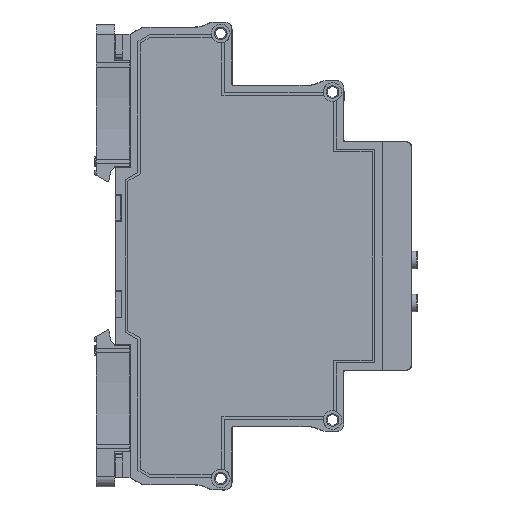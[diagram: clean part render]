
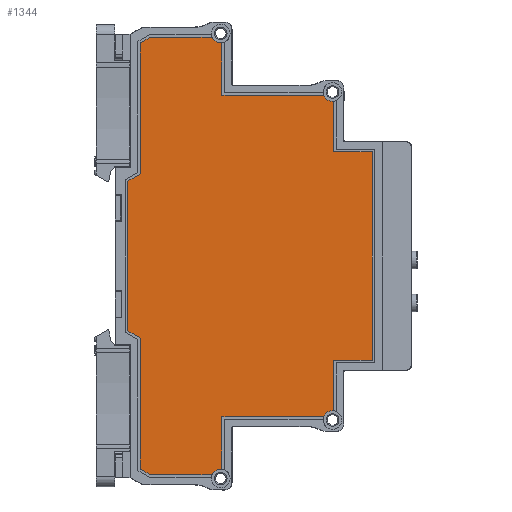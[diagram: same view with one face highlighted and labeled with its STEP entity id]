
A CAD part, front view. The second image highlights one B-rep face of the part: STEP entity #1344.
In plain terms, the highlighted planar face has unit normal (0, -1, 0) as drawn and (1, 0, 0) by its records, which use the part's own axes.
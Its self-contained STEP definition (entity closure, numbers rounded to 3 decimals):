
#1344=ADVANCED_FACE('',(#32249),#32251,.T.);
#32249=FACE_BOUND('',#32250,.T.);
#32250=EDGE_LOOP('',(#56974,#56975,#56976,#56977,#56978,#56979,#56980,#56981,#56982,
#56983,#56984,#56985,#56986,#56987,#56988,#56989,#56990,#56991,#56992,#56993,#56994,
#56995));
#32251=PLANE('',#32252);
#32252=AXIS2_PLACEMENT_3D('',#32253,#32254,#32255);
#32253=CARTESIAN_POINT('',(6.5,0.,0.));
#32254=DIRECTION('',(1.,0.,0.));
#32255=DIRECTION('',(0.,0.,-1.));
#56974=ORIENTED_EDGE('',*,*,#77044,.F.);
#56975=ORIENTED_EDGE('',*,*,#77045,.T.);
#56976=ORIENTED_EDGE('',*,*,#76962,.F.);
#56977=ORIENTED_EDGE('',*,*,#77046,.T.);
#56978=ORIENTED_EDGE('',*,*,#77047,.T.);
#56979=ORIENTED_EDGE('',*,*,#77048,.T.);
#56980=ORIENTED_EDGE('',*,*,#77049,.T.);
#56981=ORIENTED_EDGE('',*,*,#77050,.T.);
#56982=ORIENTED_EDGE('',*,*,#76946,.F.);
#56983=ORIENTED_EDGE('',*,*,#77051,.F.);
#56984=ORIENTED_EDGE('',*,*,#77052,.T.);
#56985=ORIENTED_EDGE('',*,*,#76956,.F.);
#56986=ORIENTED_EDGE('',*,*,#77053,.T.);
#56987=ORIENTED_EDGE('',*,*,#77054,.F.);
#56988=ORIENTED_EDGE('',*,*,#77055,.T.);
#56989=ORIENTED_EDGE('',*,*,#77056,.T.);
#56990=ORIENTED_EDGE('',*,*,#77057,.T.);
#56991=ORIENTED_EDGE('',*,*,#77058,.T.);
#56992=ORIENTED_EDGE('',*,*,#77059,.T.);
#56993=ORIENTED_EDGE('',*,*,#77060,.F.);
#56994=ORIENTED_EDGE('',*,*,#77061,.T.);
#56995=ORIENTED_EDGE('',*,*,#76972,.F.);
#76946=EDGE_CURVE('',#86633,#86618,#86635,.T.);
#76956=EDGE_CURVE('',#86653,#86638,#86655,.T.);
#76962=EDGE_CURVE('',#86665,#86667,#86668,.T.);
#76972=EDGE_CURVE('',#86685,#86687,#86688,.T.);
#77044=EDGE_CURVE('',#86826,#86685,#86827,.T.);
#77045=EDGE_CURVE('',#86826,#86667,#86828,.T.);
#77046=EDGE_CURVE('',#86665,#86829,#86830,.T.);
#77047=EDGE_CURVE('',#86829,#86831,#86832,.T.);
#77048=EDGE_CURVE('',#86831,#86833,#86834,.T.);
#77049=EDGE_CURVE('',#86833,#86835,#86836,.T.);
#77050=EDGE_CURVE('',#86835,#86618,#86837,.T.);
#77051=EDGE_CURVE('',#86838,#86633,#86839,.T.);
#77052=EDGE_CURVE('',#86838,#86638,#86840,.T.);
#77053=EDGE_CURVE('',#86653,#86841,#86842,.T.);
#77054=EDGE_CURVE('',#86843,#86841,#86844,.T.);
#77055=EDGE_CURVE('',#86843,#86845,#86846,.T.);
#77056=EDGE_CURVE('',#86845,#86847,#86848,.T.);
#77057=EDGE_CURVE('',#86847,#86849,#86850,.T.);
#77058=EDGE_CURVE('',#86849,#86851,#86852,.T.);
#77059=EDGE_CURVE('',#86851,#86853,#86854,.T.);
#77060=EDGE_CURVE('',#86855,#86853,#86856,.T.);
#77061=EDGE_CURVE('',#86855,#86687,#86857,.T.);
#86618=VERTEX_POINT('',#103300);
#86633=VERTEX_POINT('',#103333);
#86635=CIRCLE('',#103337,1.85);
#86638=VERTEX_POINT('',#103346);
#86653=VERTEX_POINT('',#103379);
#86655=CIRCLE('',#103383,1.85);
#86665=VERTEX_POINT('',#103407);
#86667=VERTEX_POINT('',#103411);
#86668=CIRCLE('',#103412,1.85);
#86685=VERTEX_POINT('',#103453);
#86687=VERTEX_POINT('',#103457);
#86688=CIRCLE('',#103458,1.85);
#86826=VERTEX_POINT('',#103762);
#86827=LINE('',#103763,#103764);
#86828=LINE('',#103766,#103767);
#86829=VERTEX_POINT('',#103769);
#86830=LINE('',#103770,#103771);
#86831=VERTEX_POINT('',#103773);
#86832=LINE('',#103774,#103775);
#86833=VERTEX_POINT('',#103777);
#86834=LINE('',#103778,#103779);
#86835=VERTEX_POINT('',#103781);
#86836=LINE('',#103782,#103783);
#86837=LINE('',#103785,#103786);
#86838=VERTEX_POINT('',#103788);
#86839=LINE('',#103789,#103790);
#86840=LINE('',#103792,#103793);
#86841=VERTEX_POINT('',#103795);
#86842=LINE('',#103796,#103797);
#86843=VERTEX_POINT('',#103799);
#86844=LINE('',#103800,#103801);
#86845=VERTEX_POINT('',#103803);
#86846=LINE('',#103804,#103805);
#86847=VERTEX_POINT('',#103807);
#86848=LINE('',#103808,#103809);
#86849=VERTEX_POINT('',#103811);
#86850=LINE('',#103812,#103813);
#86851=VERTEX_POINT('',#103815);
#86852=LINE('',#103816,#103817);
#86853=VERTEX_POINT('',#103819);
#86854=LINE('',#103820,#103821);
#86855=VERTEX_POINT('',#103823);
#86856=LINE('',#103824,#103825);
#86857=LINE('',#103827,#103828);
#103300=CARTESIAN_POINT('',(6.5,-30.541,38.985));
#103333=CARTESIAN_POINT('',(6.5,-31.7,37.015));
#103337=AXIS2_PLACEMENT_3D('',#103338,#103339,#103340);
#103338=CARTESIAN_POINT('',(6.5,-32.375,38.738));
#103339=DIRECTION('',(1.,0.,0.));
#103340=DIRECTION('',(0.,0.365,-0.931));
#103346=CARTESIAN_POINT('',(6.5,-42.103,16.897));
#103379=CARTESIAN_POINT('',(6.5,-43.2,14.953));
#103383=AXIS2_PLACEMENT_3D('',#103384,#103385,#103386);
#103384=CARTESIAN_POINT('',(6.5,-43.937,16.65));
#103385=DIRECTION('',(1.,0.,0.));
#103386=DIRECTION('',(0.,0.398,-0.917));
#103407=CARTESIAN_POINT('',(6.5,30.541,38.985));
#103411=CARTESIAN_POINT('',(6.5,31.7,37.015));
#103412=AXIS2_PLACEMENT_3D('',#103413,#103414,#103415);
#103413=CARTESIAN_POINT('',(6.5,32.375,38.738));
#103414=DIRECTION('',(1.,0.,0.));
#103415=DIRECTION('',(0.,-0.991,0.134));
#103453=CARTESIAN_POINT('',(6.5,42.103,16.897));
#103457=CARTESIAN_POINT('',(6.5,43.2,14.953));
#103458=AXIS2_PLACEMENT_3D('',#103459,#103460,#103461);
#103459=CARTESIAN_POINT('',(6.5,43.937,16.65));
#103460=DIRECTION('',(1.,0.,0.));
#103461=DIRECTION('',(0.,-0.991,0.134));
#103762=CARTESIAN_POINT('',(6.5,31.7,16.897));
#103763=CARTESIAN_POINT('',(6.5,31.7,16.897));
#103764=VECTOR('',#103765,1.);
#103765=DIRECTION('',(0.,1.,0.));
#103766=CARTESIAN_POINT('',(6.5,31.7,16.897));
#103767=VECTOR('',#103768,1.);
#103768=DIRECTION('',(0.,0.,1.));
#103769=CARTESIAN_POINT('',(6.5,20.6,38.985));
#103770=CARTESIAN_POINT('',(6.5,30.541,38.985));
#103771=VECTOR('',#103772,1.);
#103772=DIRECTION('',(0.,-1.,0.));
#103773=CARTESIAN_POINT('',(6.5,20.6,46.53));
#103774=CARTESIAN_POINT('',(6.5,20.6,38.985));
#103775=VECTOR('',#103776,1.);
#103776=DIRECTION('',(0.,0.,1.));
#103777=CARTESIAN_POINT('',(6.5,-20.6,46.53));
#103778=CARTESIAN_POINT('',(6.5,20.6,46.53));
#103779=VECTOR('',#103780,1.);
#103780=DIRECTION('',(0.,-1.,0.));
#103781=CARTESIAN_POINT('',(6.5,-20.6,38.985));
#103782=CARTESIAN_POINT('',(6.5,-20.6,46.53));
#103783=VECTOR('',#103784,1.);
#103784=DIRECTION('',(0.,0.,-1.));
#103785=CARTESIAN_POINT('',(6.5,-20.6,38.985));
#103786=VECTOR('',#103787,1.);
#103787=DIRECTION('',(0.,-1.,0.));
#103788=CARTESIAN_POINT('',(6.5,-31.7,16.897));
#103789=CARTESIAN_POINT('',(6.5,-31.7,16.897));
#103790=VECTOR('',#103791,1.);
#103791=DIRECTION('',(0.,0.,1.));
#103792=CARTESIAN_POINT('',(6.5,-31.7,16.897));
#103793=VECTOR('',#103794,1.);
#103794=DIRECTION('',(0.,-1.,0.));
#103795=CARTESIAN_POINT('',(6.5,-43.2,2.761));
#103796=CARTESIAN_POINT('',(6.5,-43.2,14.953));
#103797=VECTOR('',#103798,1.);
#103798=DIRECTION('',(0.,0.,-1.));
#103799=CARTESIAN_POINT('',(6.5,-42.068,0.8));
#103800=CARTESIAN_POINT('',(6.5,-42.068,0.8));
#103801=VECTOR('',#103802,1.);
#103802=DIRECTION('',(0.,-0.5,0.866));
#103803=CARTESIAN_POINT('',(6.5,-16.211,0.8));
#103804=CARTESIAN_POINT('',(6.5,-42.068,0.8));
#103805=VECTOR('',#103806,1.);
#103806=DIRECTION('',(0.,1.,0.));
#103807=CARTESIAN_POINT('',(6.5,-14.768,-1.7));
#103808=CARTESIAN_POINT('',(6.5,-16.211,0.8));
#103809=VECTOR('',#103810,1.);
#103810=DIRECTION('',(0.,0.5,-0.866));
#103811=CARTESIAN_POINT('',(6.5,14.768,-1.7));
#103812=CARTESIAN_POINT('',(6.5,-14.768,-1.7));
#103813=VECTOR('',#103814,1.);
#103814=DIRECTION('',(0.,1.,0.));
#103815=CARTESIAN_POINT('',(6.5,16.211,0.8));
#103816=CARTESIAN_POINT('',(6.5,14.768,-1.7));
#103817=VECTOR('',#103818,1.);
#103818=DIRECTION('',(0.,0.5,0.866));
#103819=CARTESIAN_POINT('',(6.5,42.068,0.8));
#103820=CARTESIAN_POINT('',(6.5,16.211,0.8));
#103821=VECTOR('',#103822,1.);
#103822=DIRECTION('',(0.,1.,0.));
#103823=CARTESIAN_POINT('',(6.5,43.2,2.761));
#103824=CARTESIAN_POINT('',(6.5,43.2,2.761));
#103825=VECTOR('',#103826,1.);
#103826=DIRECTION('',(0.,-0.5,-0.866));
#103827=CARTESIAN_POINT('',(6.5,43.2,2.761));
#103828=VECTOR('',#103829,1.);
#103829=DIRECTION('',(0.,0.,1.));
